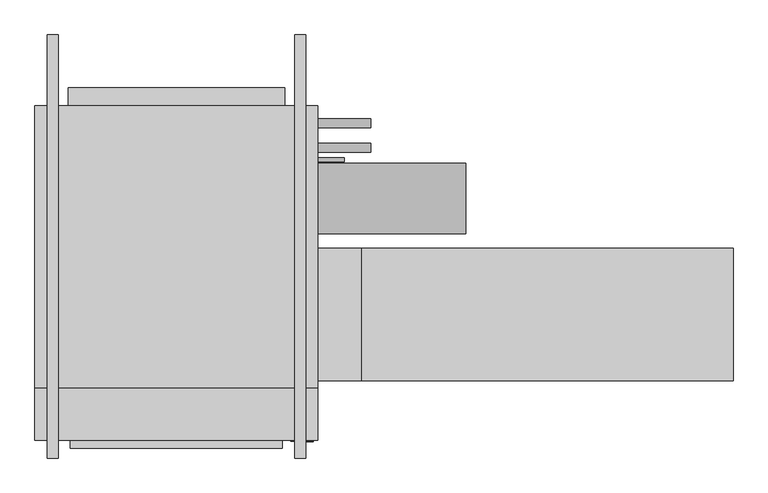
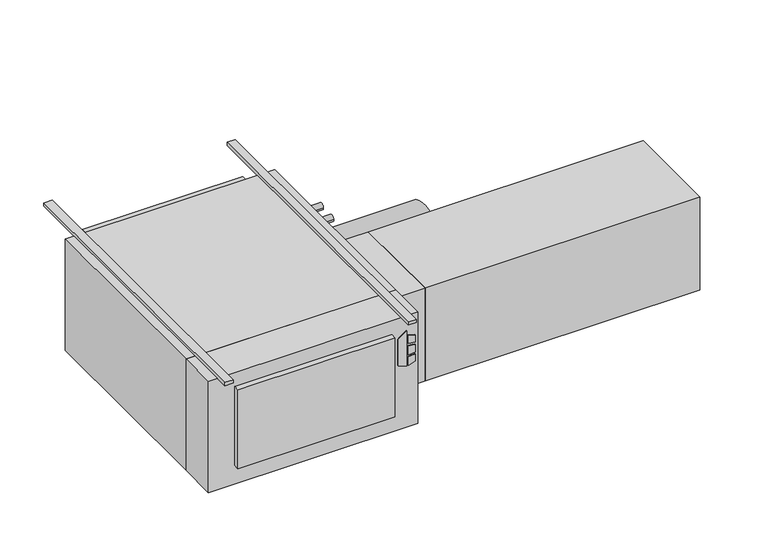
"""IFC4 building model written with IfcOpenShell, lengths in millimetres: proxy geometry."""

from ifc_helpers import new_model, si_unit, point, frame, frame_2d, origin, origin_with_axes, place, context, project, spatial, polyline, circle_curve, trimmed, segment, composite_curve, outline, extrude, source, transform, mapped, element, save


def mechanical_equipment_c1350a66(model_context):
    return source(origin(), model_context, "Body", "SweptSolid", [
        extrude(outline(polyline([(-193.2519297, 481.0868862), (-203.2, 513.2602728), (-61.0290756, 513.2602728), (-84.0510817, 481.0868862), (-193.2519297, 481.0868862)])), frame((0.0, -797.052, 0.0), z_axis=(0.0, 1.0, 0.0), x_axis=(0.0, 0.0, 1.0)), (0.0, 0.0, 1.0), 3.175),
        extrude(outline(polyline([(-114.2526443, 520.0186058), (-117.4550368, 546.1), (-88.2261958, 546.1), (-80.1617807, 520.0186058), (-114.2526443, 520.0186058)])), frame((0.0, -797.052, 0.0), z_axis=(0.0, 1.0, 0.0), x_axis=(0.0, 0.0, 1.0)), (0.0, 0.0, 1.0), 3.175),
        extrude(outline(polyline([(-166.1161712, 546.1), (-169.7816721, 520.0186058), (-203.2, 520.0186058), (-194.5657628, 546.1), (-166.1161712, 546.1)])), frame((0.0, -797.052, 0.0), z_axis=(0.0, 1.0, 0.0), x_axis=(0.0, 0.0, 1.0)), (0.0, 0.0, 1.0), 3.175),
        extrude(outline(polyline([(-126.8010097, 546.1), (-124.5191834, 520.0186058), (-160.4567319, 520.0186058), (-157.7154669, 546.1), (-126.8010097, 546.1)])), frame((0.0, -797.052, 0.0), z_axis=(0.0, 1.0, 0.0), x_axis=(0.0, 0.0, 1.0)), (0.0, 0.0, 1.0), 3.175),
        extrude(outline(polyline([(558.8, -793.877), (-254.0, -793.877), (-254.0, -644.525), (558.8, -644.525), (558.8, -793.877)])), frame((0.0, 0.0, -457.2), z_axis=(0.0, 0.0, 1.0), x_axis=(1.0, 0.0, 0.0)), (0.0, 0.0, 1.0), 457.2),
        extrude(outline(polyline([(457.2, -816.229), (-152.4, -816.229), (-152.4, -793.877), (457.2, -793.877), (457.2, -816.229)])), frame((0.0, 0.0, -381.0), z_axis=(0.0, 0.0, 1.0), x_axis=(1.0, 0.0, 0.0)), (0.0, 0.0, 1.0), 323.85),
        extrude(outline(polyline([(1752.6, -241.3), (1752.6, -622.3), (685.8, -622.3), (685.8, -241.3), (1752.6, -241.3)])), frame((0.0, 0.0, -431.8), z_axis=(0.0, 0.0, 1.0), x_axis=(1.0, 0.0, 0.0)), (0.0, 0.0, 1.0), 381.0),
        extrude(outline(polyline([(685.8, -241.3), (685.8, -622.3), (558.8, -622.3), (558.8, -241.3), (685.8, -241.3)])), frame((0.0, 0.0, -431.8), z_axis=(0.0, 0.0, 1.0), x_axis=(1.0, 0.0, 0.0)), (0.0, 0.0, 1.0), 381.0),
        extrude(outline(composite_curve([segment(trimmed(circle_curve(frame_2d((117.475, -171.45)), 12.7), [point((130.175, -171.45))], [point((104.775, -171.45))], False, "CARTESIAN"), True, "CONTINUOUS"), segment(trimmed(circle_curve(frame_2d((117.475, -171.45)), 12.7), [point((104.775, -171.45))], [point((130.175, -171.45))], False, "CARTESIAN"), True, "CONTINUOUS")], self_intersect=False)), frame((558.8, 0.0, 0.0), z_axis=(1.0, 0.0, 0.0), x_axis=(0.0, 1.0, 0.0)), (0.0, 0.0, 1.0), 152.4),
        extrude(outline(composite_curve([segment(trimmed(circle_curve(frame_2d((47.625, -177.8)), 12.7), [point((60.325, -177.8))], [point((34.925, -177.8))], False, "CARTESIAN"), True, "CONTINUOUS"), segment(trimmed(circle_curve(frame_2d((47.625, -177.8)), 12.7), [point((34.925, -177.8))], [point((60.325, -177.8))], False, "CARTESIAN"), True, "CONTINUOUS")], self_intersect=False)), frame((558.8, 0.0, 0.0), z_axis=(1.0, 0.0, 0.0), x_axis=(0.0, 1.0, 0.0)), (0.0, 0.0, 1.0), 152.4),
        extrude(outline(composite_curve([segment(trimmed(circle_curve(frame_2d((-98.4896516, -228.6360165)), 101.6), [point((3.1103484, -228.6360165))], [point((-200.0896516, -228.6360165))], False, "CARTESIAN"), True, "CONTINUOUS"), segment(trimmed(circle_curve(frame_2d((-98.4896516, -228.6360165)), 101.6), [point((-200.0896516, -228.6360165))], [point((3.1103484, -228.6360165))], False, "CARTESIAN"), True, "CONTINUOUS")], self_intersect=False)), frame((558.8, 0.0, 0.0), z_axis=(1.0, 0.0, 0.0), x_axis=(0.0, 1.0, 0.0)), (0.0, 0.0, 1.0), 425.45),
        extrude(outline(composite_curve([segment(trimmed(circle_curve(frame_2d((12.7, -409.575)), 6.35), [point((19.05, -409.575))], [point((6.35, -409.575))], False, "CARTESIAN"), True, "CONTINUOUS"), segment(trimmed(circle_curve(frame_2d((12.7, -409.575)), 6.35), [point((6.35, -409.575))], [point((19.05, -409.575))], False, "CARTESIAN"), True, "CONTINUOUS")], self_intersect=False)), frame((558.8, 0.0, 0.0), z_axis=(1.0, 0.0, 0.0), x_axis=(0.0, 1.0, 0.0)), (0.0, 0.0, 1.0), 76.2),
        extrude(outline(polyline([(558.8, 168.275), (558.8, -644.525), (-254.0, -644.525), (-254.0, 168.275), (558.8, 168.275)])), frame((0.0, 0.0, -457.2), z_axis=(0.0, 0.0, 1.0), x_axis=(1.0, 0.0, 0.0)), (0.0, 0.0, 1.0), 457.2),
        extrude(outline(polyline([(-158.75, 219.075), (463.55, 219.075), (463.55, 168.275), (-158.75, 168.275), (-158.75, 219.075)])), frame((0.0, 0.0, -381.0), z_axis=(0.0, 0.0, 1.0), x_axis=(1.0, 0.0, 0.0)), (0.0, 0.0, 1.0), 355.6),
        extrude(outline(polyline([(-187.325, 371.475), (-187.325, -844.677), (-219.075, -844.677), (-219.075, 371.475), (-187.325, 371.475)])), origin_with_axes(), (0.0, 0.0, 1.0), 12.7),
        extrude(outline(polyline([(523.875, 371.475), (523.875, -844.677), (492.125, -844.677), (492.125, 371.475), (523.875, 371.475)])), origin_with_axes(), (0.0, 0.0, 1.0), 12.7),
    ])


if __name__ == "__main__":
    model = new_model("IFC4")
    model_context = context("Model", 3, world=origin())
    ifc_project = project(units=[si_unit("LENGTHUNIT", "METRE", prefix="MILLI")], contexts=[model_context])
    site = spatial("IfcSite", under=ifc_project)
    building = spatial("IfcBuilding", under=site)
    placement = place(None, origin())
    mechanical_equipment_shape = mechanical_equipment_c1350a66(model_context)
    element("IfcBuildingElementProxy", 1, Name="High_Capacity_Horizontal_Cabinet_Fan_Coil_Unit_-_HTY_-_IEC_-_2 Pipe, Elec Heat_RH Side_2022 : Size 10 - 277v/60Hz/1Ph - 8/0 Coil 7.0kW - 8\" AirIn", ObjectType="High_Capacity_Horizontal_Cabinet_Fan_Coil_Unit_-_HTY_-_IEC_-_2 Pipe, Elec Heat_RH Side_2022 : Size 10 - 277v/60Hz/1Ph - 8/0 Coil 7.0kW - 8\" AirIn", at=placement, inside=building, context=model_context, shape_type="MappedRepresentation", body=[
        mapped(mechanical_equipment_shape, transform((0.0, 0.0, 0.0), x_axis=(1.0, 0.0, 0.0), y_axis=(0.0, 1.0, 0.0), z_axis=(0.0, 0.0, 1.0))),
    ])
    save(model, "model.ifc")
